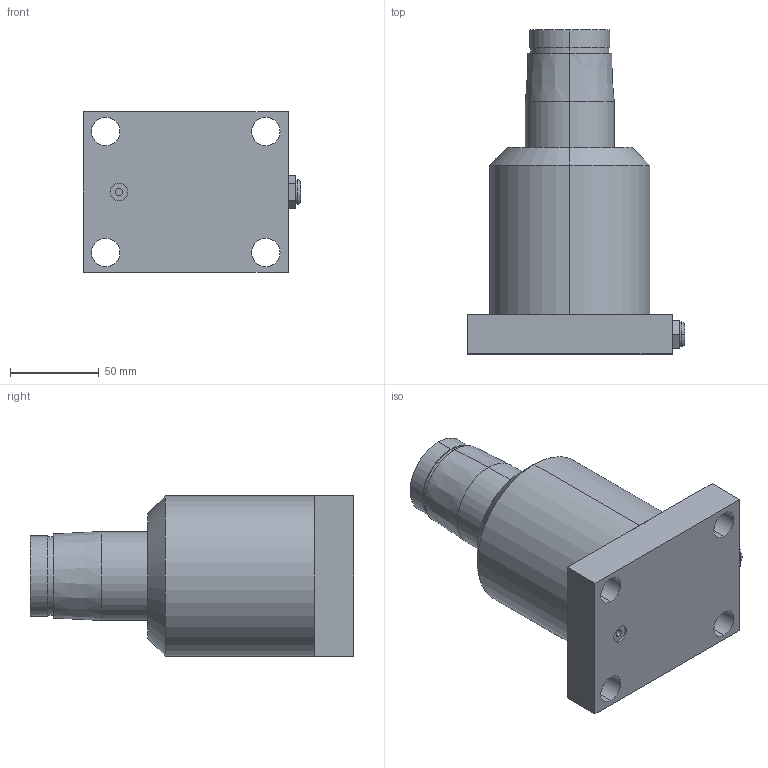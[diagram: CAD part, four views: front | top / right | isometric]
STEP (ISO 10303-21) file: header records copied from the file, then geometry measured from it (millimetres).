
FILE_DESCRIPTION (( 'STEP AP214' ), '1' );
FILE_NAME ('HPS-63SC.STEP', '2021-10-18T08:41:35', ( '' ), ( '' ), 'SwSTEP 2.0', 'SolidWorks 2016', '' );
FILE_SCHEMA (( 'AUTOMOTIVE_DESIGN' ));
Length unit declared in the file: millimetre
Products named in the file (1): HPS-63SC
Bounding box: 122 x 182 x 90 mm (x, y, z)
Volume: 917815.3 mm3; surface area: 67703 mm2
Topology: 1 solids, 1 shells, 49 faces, 110 edges, 70 vertices
Faces by surface type: cylinder 22, plane 21, cone 4, torus 2
Entity records: 1448 total; most frequent: DIRECTION 262, CARTESIAN_POINT 230, ORIENTED_EDGE 220, EDGE_CURVE 110, AXIS2_PLACEMENT_3D 102, VERTEX_POINT 70, EDGE_LOOP 64, VECTOR 58
